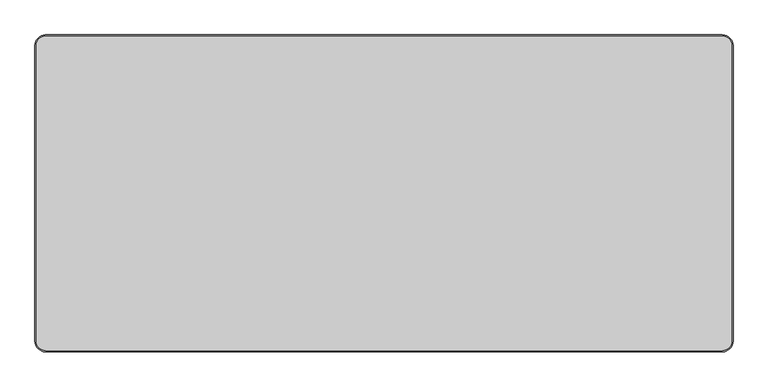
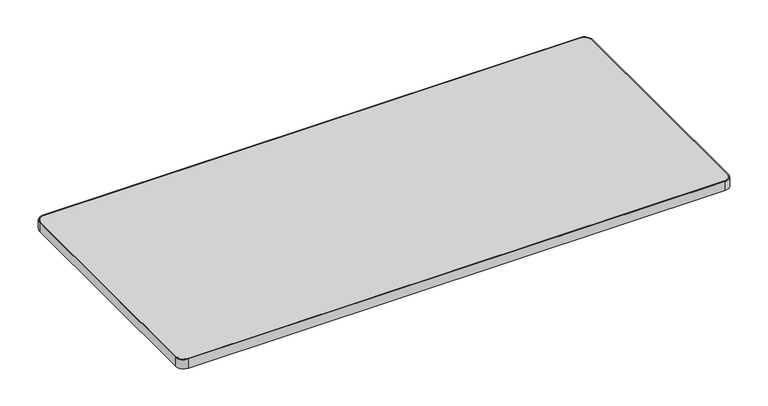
"""IFC4 building model written with IfcOpenShell, lengths in millimetres: furniture geometry, Steelcase - Groupwork - Table - Top - Rectangular : 30D x 66W - HPL."""

import ifcopenshell
import ifcopenshell.guid

model = None  # the IFC model being written
_history = None  # IfcOwnerHistory: only IFC2X3 demands one
_inside = {}  # id of a spatial element -> (the spatial element, [elements in it])
_under = {}  # id of a project, library or spatial element -> (it, [spatial elements below it])
_declared = {}  # id of a project -> (the project, [libraries it declares])
_typed = {}  # id of a type object -> (the type object, [elements of that type])
_made_of = {}  # id of a material, layer set ... -> (it, [elements and type objects made of it])


def new_model(schema):
    """Start an empty IFC model of exactly this schema.

    Asked for "IFC4X3", IfcOpenShell would pick the latest addendum, in which some entities
    have other attributes; the version numbers below select the first issue.
    IFC2X3 requires an IfcOwnerHistory on every rooted entity: one is made here for all.
    """
    global model, _history
    if schema == "IFC4X3":
        model = ifcopenshell.file(schema_version=(4, 3, 0, 0))
    else:
        model = ifcopenshell.file(schema=schema)
    _inside.clear()
    _under.clear()
    _declared.clear()
    _typed.clear()
    _made_of.clear()
    _history = None
    if model.schema == "IFC2X3":
        org = make("IfcOrganization", Name="unknown")
        user = make(
            "IfcPersonAndOrganization",
            ThePerson=make("IfcPerson", FamilyName="unknown"),
            TheOrganization=org,
        )
        app = make(
            "IfcApplication",
            ApplicationDeveloper=org,
            Version="unknown",
            ApplicationFullName="unknown",
            ApplicationIdentifier="unknown",
        )
        _history = make(
            "IfcOwnerHistory",
            OwningUser=user,
            OwningApplication=app,
            ChangeAction="ADDED",
            CreationDate=0,
        )
    return model


def make(cls, **values):
    """One entity of the class cls with the attributes given. An attribute that is None is left unset."""
    return model.create_entity(
        cls, **{name: value for name, value in values.items() if value is not None}
    )


def rooted(cls, **values):
    """An entity with a GlobalId (a new one), such as an element, a storey or a relation."""
    return make(cls, GlobalId=ifcopenshell.guid.new(), OwnerHistory=_history, **values)


def si_unit(unit_type, name, prefix=None):
    """IfcSIUnit, for example si_unit("LENGTHUNIT", "METRE", prefix="MILLI")."""
    return make("IfcSIUnit", UnitType=unit_type, Prefix=prefix, Name=name)


def assignment(units):
    """IfcUnitAssignment: the units of a project."""
    return None if units is None else make("IfcUnitAssignment", Units=units)


def point(xyz):
    """IfcCartesianPoint."""
    return None if xyz is None else make("IfcCartesianPoint", Coordinates=xyz)


def direction(xyz):
    """IfcDirection."""
    return None if xyz is None else make("IfcDirection", DirectionRatios=xyz)


def frame(location, z_axis=None, x_axis=None):
    """IfcAxis2Placement3D, a coordinate frame: its origin and axes. An axis left out is left unset."""
    return make(
        "IfcAxis2Placement3D",
        Location=point(location),
        Axis=direction(z_axis),
        RefDirection=direction(x_axis),
    )


def frame_2d(location, x_axis=None):
    """IfcAxis2Placement2D, a coordinate frame in the plane: its origin and x axis."""
    return make(
        "IfcAxis2Placement2D", Location=point(location), RefDirection=direction(x_axis)
    )


def origin():
    """The frame at (0, 0, 0) with its axes left unset."""
    return frame((0.0, 0.0, 0.0))


def place(relative_to, where):
    """IfcLocalPlacement: puts the frame where relative to a parent placement (None: the world)."""
    return make(
        "IfcLocalPlacement", PlacementRelTo=relative_to, RelativePlacement=where
    )


def context(
    kind, dimensions, precision=None, world=None, true_north=None, identifier=None
):
    """IfcGeometricRepresentationContext, for example the 3D "Model" context."""
    return make(
        "IfcGeometricRepresentationContext",
        ContextIdentifier=identifier,
        ContextType=kind,
        CoordinateSpaceDimension=dimensions,
        Precision=precision,
        WorldCoordinateSystem=world,
        TrueNorth=true_north,
    )


def project(units=None, contexts=None):
    """IfcProject with its units and contexts."""
    return rooted(
        "IfcProject",
        Name="project",
        RepresentationContexts=contexts,
        UnitsInContext=assignment(units),
    )


def spatial(cls, under=None, at=None, **own):
    """A site, building, storey or space (cls), placed at a placement, below another one or the project."""
    s = rooted(cls, ObjectPlacement=at, **own)
    if under is not None:
        _under.setdefault(under.id(), (under, []))[1].append(s)
    return s


def polyline(points):
    """IfcPolyline through the points."""
    return make("IfcPolyline", Points=[point(p) for p in points])


def circle_curve(where, radius):
    """IfcCircle in the frame where."""
    return make("IfcCircle", Position=where, Radius=radius)


def trimmed(basis, trim1, trim2, sense, master):
    """IfcTrimmedCurve: the piece of a basis curve between two trims."""
    return make(
        "IfcTrimmedCurve",
        BasisCurve=basis,
        Trim1=trim1,
        Trim2=trim2,
        SenseAgreement=sense,
        MasterRepresentation=master,
    )


def segment(curve, same_sense, transition):
    """IfcCompositeCurveSegment."""
    return make(
        "IfcCompositeCurveSegment",
        Transition=transition,
        SameSense=same_sense,
        ParentCurve=curve,
    )


def composite_curve(segments, self_intersect=None):
    """IfcCompositeCurve: segments joined end to end."""
    return make("IfcCompositeCurve", Segments=segments, SelfIntersect=self_intersect)


def outline(outer, holes=None, kind="AREA"):
    """IfcArbitraryClosedProfileDef: a profile drawn as a closed curve; with holes, ...WithVoids."""
    if holes is None:
        return make("IfcArbitraryClosedProfileDef", ProfileType=kind, OuterCurve=outer)
    return make(
        "IfcArbitraryProfileDefWithVoids",
        ProfileType=kind,
        OuterCurve=outer,
        InnerCurves=holes,
    )


def extrude(swept, where, along, depth):
    """IfcExtrudedAreaSolid: the profile swept, set in the frame where, extruded along a direction by depth."""
    return make(
        "IfcExtrudedAreaSolid",
        SweptArea=swept,
        Position=where,
        ExtrudedDirection=direction(along),
        Depth=depth,
    )


def shape(context_of_items, identifier, shape_type, items):
    """IfcShapeRepresentation: the items that make up one representation, for example the "Body"."""
    return make(
        "IfcShapeRepresentation",
        ContextOfItems=context_of_items,
        RepresentationIdentifier=identifier,
        RepresentationType=shape_type,
        Items=items,
    )


def source(mapping_origin, context_of_items, identifier, shape_type, items):
    """IfcRepresentationMap: a shape defined once, which mapped items show again and again."""
    return make(
        "IfcRepresentationMap",
        MappingOrigin=mapping_origin,
        MappedRepresentation=shape(context_of_items, identifier, shape_type, items),
    )


def transform(
    local_origin,
    x_axis=None,
    y_axis=None,
    z_axis=None,
    scale=None,
    scale2=None,
    scale3=None,
    uniform=True,
):
    """IfcCartesianTransformationOperator3D, or its non-uniform kind. x_axis, y_axis, z_axis: its Axis1, 2, 3."""
    if uniform:
        return make(
            "IfcCartesianTransformationOperator3D",
            Axis1=direction(x_axis),
            Axis2=direction(y_axis),
            LocalOrigin=point(local_origin),
            Scale=scale,
            Axis3=direction(z_axis),
        )
    return make(
        "IfcCartesianTransformationOperator3DnonUniform",
        Axis1=direction(x_axis),
        Axis2=direction(y_axis),
        LocalOrigin=point(local_origin),
        Scale=scale,
        Axis3=direction(z_axis),
        Scale2=scale2,
        Scale3=scale3,
    )


def mapped(mapping_source, mapping_target):
    """IfcMappedItem: shows the shape of a source again, moved by a transform."""
    return make(
        "IfcMappedItem", MappingSource=mapping_source, MappingTarget=mapping_target
    )


def made_of(thing, what):
    """Note that an element or type object is made of a material, layer set ...; save() writes the relation."""
    if what is not None:
        _made_of.setdefault(what.id(), (what, []))[1].append(thing)
    return thing


def element(
    cls,
    number,
    at=None,
    inside=None,
    cuts=None,
    type_object=None,
    material=None,
    context=None,
    identifier="Body",
    shape_type=None,
    held_by="IfcProductDefinitionShape",
    body=None,
    shapes=None,
    **own,
):
    """One element of the class cls, such as IfcWall. Its Tag is "e" and its number.

    at: its placement. inside: the storey or other place that contains it. cuts: it is an
    opening in that element (IfcRelVoidsElement). A single representation is given by context,
    identifier, shape_type and body (its items); several are given by shapes. held_by: the class
    of the entity that holds the representations. save() writes the other relations.
    """
    e = rooted(cls, Tag="e%d" % number, ObjectPlacement=at, **own)
    if body is not None:
        shapes = [shape(context, identifier, shape_type, body)]
    if shapes is not None:
        e.Representation = make(held_by, Representations=shapes)
    if inside is not None:
        _inside.setdefault(inside.id(), (inside, []))[1].append(e)
    if cuts is not None:
        rooted(
            "IfcRelVoidsElement", RelatingBuildingElement=cuts, RelatedOpeningElement=e
        )
    if type_object is not None:
        _typed.setdefault(type_object.id(), (type_object, []))[1].append(e)
    return made_of(e, material)


def aggregate(whole, parts):
    """IfcRelAggregates: a whole, such as a stair, and the parts it consists of."""
    return rooted("IfcRelAggregates", RelatingObject=whole, RelatedObjects=parts)


def save(model, path):
    """Write the relations noted so far, then the file.

    IfcRelAggregates (storeys below a building ...), IfcRelContainedInSpatialStructure (elements
    in a storey), IfcRelDefinesByType, IfcRelAssociatesMaterial and IfcRelDeclares: one each for
    every whole, place, type object, material and project.
    """
    for whole, parts in _under.values():
        aggregate(whole, parts)
    for where, things in _inside.values():
        rooted(
            "IfcRelContainedInSpatialStructure",
            RelatedElements=things,
            RelatingStructure=where,
        )
    for kind, things in _typed.values():
        rooted("IfcRelDefinesByType", RelatedObjects=things, RelatingType=kind)
    for what, things in _made_of.values():
        rooted("IfcRelAssociatesMaterial", RelatedObjects=things, RelatingMaterial=what)
    for by, libraries in _declared.values():
        rooted("IfcRelDeclares", RelatingContext=by, RelatedDefinitions=libraries)
    model.write(path)


def furniture_3c9f8f3f(model_context):
    return source(origin(), model_context, "Body", "SweptSolid", [
        extrude(outline(composite_curve([segment(polyline([(-840.74, 378.0), (783.94, 378.0)]), True, "CONTINUOUS"), segment(trimmed(circle_curve(frame_2d((783.94, 355.14)), 22.86), [point((783.94, 378.0))], [point((806.8, 355.14))], False, "CARTESIAN"), True, "CONTINUOUS"), segment(polyline([(806.8, 355.14), (806.8, -355.14)]), True, "CONTINUOUS"), segment(trimmed(circle_curve(frame_2d((783.94, -355.14)), 22.86), [point((806.8, -355.14))], [point((783.94, -378.0))], False, "CARTESIAN"), True, "CONTINUOUS"), segment(polyline([(783.94, -378.0), (-840.74, -378.0)]), True, "CONTINUOUS"), segment(trimmed(circle_curve(frame_2d((-840.74, -355.14)), 22.86), [point((-840.74, -378.0))], [point((-863.6, -355.14))], False, "CARTESIAN"), True, "CONTINUOUS"), segment(polyline([(-863.6, -355.14), (-863.6, 355.14)]), True, "CONTINUOUS"), segment(trimmed(circle_curve(frame_2d((-840.74, 355.14)), 22.86), [point((-863.6, 355.14))], [point((-840.74, 378.0))], False, "CARTESIAN"), True, "CONTINUOUS")], self_intersect=False)), frame((0.0, 0.0, 694.944), z_axis=(0.0, 0.0, 1.0), x_axis=(1.0, 0.0, 0.0)), (0.0, 0.0, 1.0), 28.956),
        extrude(outline(composite_curve([segment(trimmed(circle_curve(frame_2d((784.3385373, 355.5385373)), 25.4614627), [point((784.3385373, 381.0))], [point((809.8, 355.5385373))], False, "CARTESIAN"), True, "CONTINUOUS"), segment(polyline([(809.8, 355.5385373), (809.8, -355.6211297)]), True, "CONTINUOUS"), segment(trimmed(circle_curve(frame_2d((784.4211297, -355.6211297)), 25.3788703), [point((809.8, -355.6211297))], [point((784.4211297, -381.0))], False, "CARTESIAN"), True, "CONTINUOUS"), segment(polyline([(784.4211297, -381.0), (-841.2, -381.0)]), True, "CONTINUOUS"), segment(trimmed(circle_curve(frame_2d((-841.2, -355.6)), 25.4), [point((-841.2, -381.0))], [point((-866.6, -355.6))], False, "CARTESIAN"), True, "CONTINUOUS"), segment(polyline([(-866.6, -355.6), (-866.6, 355.6)]), True, "CONTINUOUS"), segment(trimmed(circle_curve(frame_2d((-841.2, 355.6)), 25.4), [point((-866.6, 355.6))], [point((-841.2, 381.0))], False, "CARTESIAN"), True, "CONTINUOUS"), segment(polyline([(-841.2, 381.0), (784.3385373, 381.0)]), True, "CONTINUOUS")], self_intersect=False), holes=[composite_curve([segment(polyline([(784.0064662, 378.0), (-840.74, 378.0)]), True, "CONTINUOUS"), segment(trimmed(circle_curve(frame_2d((-840.74, 355.14)), 22.86), [point((-840.74, 378.0))], [point((-863.6, 355.14))], True, "CARTESIAN"), True, "CONTINUOUS"), segment(polyline([(-863.6, 355.14), (-863.6, -355.14)]), True, "CONTINUOUS"), segment(trimmed(circle_curve(frame_2d((-840.74, -355.14)), 22.86), [point((-863.6, -355.14))], [point((-840.74, -378.0))], True, "CARTESIAN"), True, "CONTINUOUS"), segment(polyline([(-840.74, -378.0), (783.773488, -378.0)]), True, "CONTINUOUS"), segment(trimmed(circle_curve(frame_2d((783.773488, -354.973488)), 23.026512), [point((783.773488, -378.0))], [point((806.8, -354.973488))], True, "CARTESIAN"), True, "CONTINUOUS"), segment(polyline([(806.8, -354.973488), (806.8, 355.2064662)]), True, "CONTINUOUS"), segment(trimmed(circle_curve(frame_2d((784.0064662, 355.2064662)), 22.7935338), [point((806.8, 355.2064662))], [point((784.0064662, 378.0))], True, "CARTESIAN"), True, "CONTINUOUS")], self_intersect=False)]), frame((0.0, 0.0, 694.944), z_axis=(0.0, 0.0, 1.0), x_axis=(1.0, 0.0, 0.0)), (0.0, 0.0, 1.0), 28.956),
    ])


if __name__ == "__main__":
    model = new_model("IFC4")
    model_context = context("Model", 3, world=origin())
    ifc_project = project(units=[si_unit("LENGTHUNIT", "METRE", prefix="MILLI")], contexts=[model_context])
    site = spatial("IfcSite", under=ifc_project)
    building = spatial("IfcBuilding", under=site)
    placement = place(None, origin())
    furniture_shape = furniture_3c9f8f3f(model_context)
    element("IfcFurniture", 1, ObjectType="Steelcase - Groupwork - Table - Top - Rectangular : 30D x 66W - HPL", at=placement, inside=building, context=model_context, shape_type="MappedRepresentation", body=[
        mapped(furniture_shape, transform((0.0, 0.0, 0.0), x_axis=(1.0, 0.0, 0.0), y_axis=(0.0, 1.0, 0.0), z_axis=(0.0, 0.0, 1.0))),
    ])
    save(model, "model.ifc")
